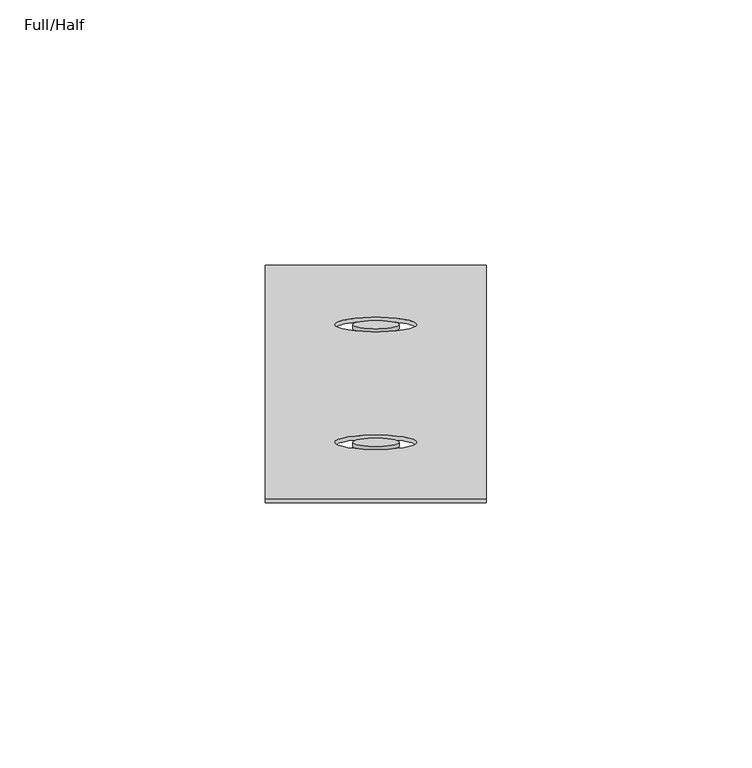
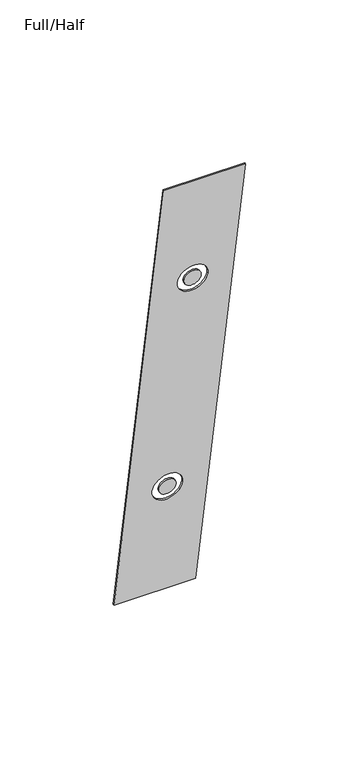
"""IFC4 building model written with IfcOpenShell, lengths in millimetres: furniture geometry, Steelcase Turnstone - Bivi - Table - Leg Cover : Full/Half."""

from ifc_helpers import new_model, si_unit, point, frame, frame_2d, origin, place, context, project, spatial, polyline, circle_curve, trimmed, segment, composite_curve, outline, extrude, source, transform, mapped, element, save


def full_half_125b1efd(model_context):
    return source(origin(), model_context, "Body", "SweptSolid", [
        extrude(outline(polyline([(41.7834961, 0.0), (0.0, 0.0), (0.0, 253.9999999), (41.7834961, 253.9999999), (41.7834961, 0.0)]), holes=[composite_curve([segment(trimmed(circle_curve(frame_2d((20.8958691, 61.4696537)), 7.7534661), [point((13.142403, 61.4696537))], [point((28.6493353, 61.4696537))], True, "CARTESIAN"), True, "CONTINUOUS"), segment(trimmed(circle_curve(frame_2d((20.8958691, 61.4696537)), 7.7534661), [point((28.6493353, 61.4696537))], [point((13.142403, 61.4696537))], True, "CARTESIAN"), True, "CONTINUOUS")], self_intersect=False), composite_curve([segment(trimmed(circle_curve(frame_2d((20.8958905, 189.4960628)), 7.7534661), [point((13.1424244, 189.4960628))], [point((28.6493566, 189.4960628))], True, "CARTESIAN"), True, "CONTINUOUS"), segment(trimmed(circle_curve(frame_2d((20.8958905, 189.4960628)), 7.7534661), [point((28.6493566, 189.4960628))], [point((13.1424244, 189.4960628))], True, "CARTESIAN"), True, "CONTINUOUS")], self_intersect=False)]), frame((3.6659394, -111.8826558, 460.0282657), z_axis=(0.0, 0.9848113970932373, 0.17362750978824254), x_axis=(1.0, 0.0, 0.0)), (0.0, 0.0, 1.0), 0.7594233),
        extrude(outline(composite_curve([segment(trimmed(circle_curve(frame_2d((20.8958691, 61.4696537)), 4.3853305), [point((16.5105386, 61.4696537))], [point((25.2811997, 61.4696537))], False, "CARTESIAN"), True, "CONTINUOUS"), segment(trimmed(circle_curve(frame_2d((20.8958691, 61.4696537)), 4.3853305), [point((25.2811997, 61.4696537))], [point((16.5105386, 61.4696537))], False, "CARTESIAN"), True, "CONTINUOUS")], self_intersect=False)), frame((3.6659394, -111.8826558, 460.0282657), z_axis=(0.0, 0.9848113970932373, 0.17362750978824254), x_axis=(1.0, 0.0, 0.0)), (0.0, 0.0, 1.0), 0.7594233),
        extrude(outline(composite_curve([segment(trimmed(circle_curve(frame_2d((20.8958905, 189.4960628)), 4.3853305), [point((16.51056, 189.4960628))], [point((25.281221, 189.4960628))], False, "CARTESIAN"), True, "CONTINUOUS"), segment(trimmed(circle_curve(frame_2d((20.8958905, 189.4960628)), 4.3853305), [point((25.281221, 189.4960628))], [point((16.51056, 189.4960628))], False, "CARTESIAN"), True, "CONTINUOUS")], self_intersect=False)), frame((3.6659394, -111.8826558, 460.0282657), z_axis=(0.0, 0.9848113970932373, 0.17362750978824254), x_axis=(1.0, 0.0, 0.0)), (0.0, 0.0, 1.0), 0.7594233),
    ])


if __name__ == "__main__":
    model = new_model("IFC4")
    model_context = context("Model", 3, world=origin())
    ifc_project = project(units=[si_unit("LENGTHUNIT", "METRE", prefix="MILLI")], contexts=[model_context])
    site = spatial("IfcSite", under=ifc_project)
    building = spatial("IfcBuilding", under=site)
    placement = place(None, origin())
    full_half_shape = full_half_125b1efd(model_context)
    element("IfcFurniture", 1, ObjectType="Steelcase Turnstone - Bivi - Table - Leg Cover : Full/Half", at=placement, inside=building, context=model_context, shape_type="MappedRepresentation", body=[
        mapped(full_half_shape, transform((0.0, 0.0, 0.0), x_axis=(1.0, 0.0, 0.0), y_axis=(0.0, 1.0, 0.0), z_axis=(0.0, 0.0, 1.0))),
    ])
    save(model, "model.ifc")
